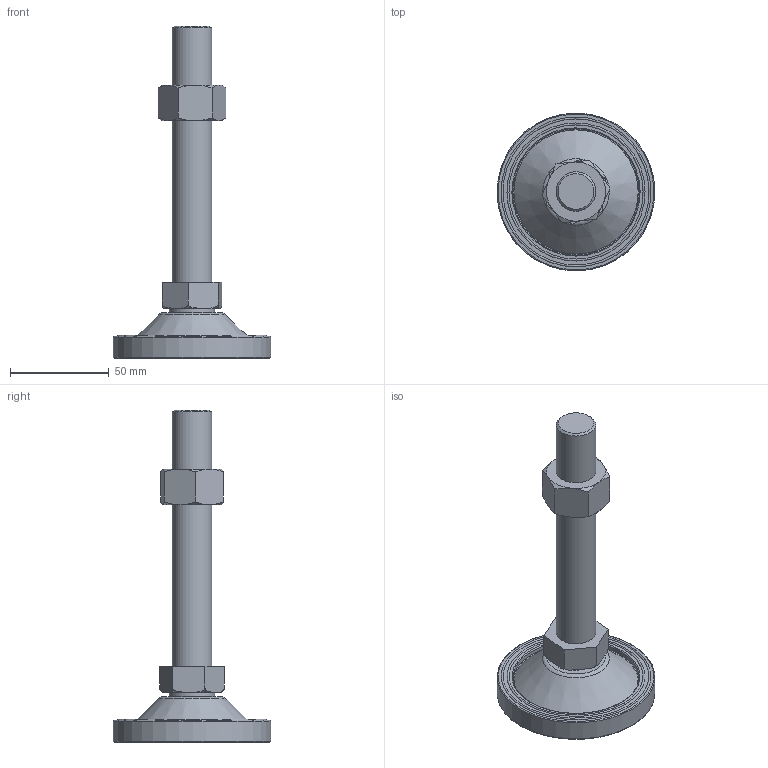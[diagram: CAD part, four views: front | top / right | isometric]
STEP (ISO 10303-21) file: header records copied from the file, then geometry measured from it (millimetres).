
FILE_DESCRIPTION((' '),'2;1');
FILE_NAME('Y:\00. A standard brand\06. 3D Modeling\외부전송용_STEP\LEVELLING FOOT(STEP)\A-PLR SERIES STEP\A-PLR-20-130.stp.stp','2011-11-22T18:43:51',(' '),(' '),' ','ACIS',' ');
FILE_SCHEMA(('CONFIG_CONTROL_DESIGN'));
Length unit declared in the file: millimetre
Products named in the file (1): Y:\00. A standard brand\06. 3D Modeling\외부전송용_STEP\LEVELLING FOOT(STEP)\A-PLR SERIES STEP\A-PLR-20-130.stp.stp
Bounding box: 80 x 80 x 168.31 mm (x, y, z)
Volume: 106606.9 mm3; surface area: 36004 mm2
Topology: 3 solids, 4 shells, 115 faces, 255 edges, 159 vertices
Faces by surface type: plane 56, cylinder 20, cone 17, torus 15, bspline 7
Full cylindrical faces by diameter (mm): 8 x1, 12 x2, 19.27 x1, 20 x2, 23 x1, 36 x1, 51 x1, 64 x2, 80 x1
Entity records: 3416 total; most frequent: CARTESIAN_POINT 997, DIRECTION 480, ORIENTED_EDGE 426, EDGE_CURVE 213, AXIS2_PLACEMENT_3D 194, EDGE_LOOP 162, VERTEX_POINT 150, FACE_OUTER_BOUND 115
